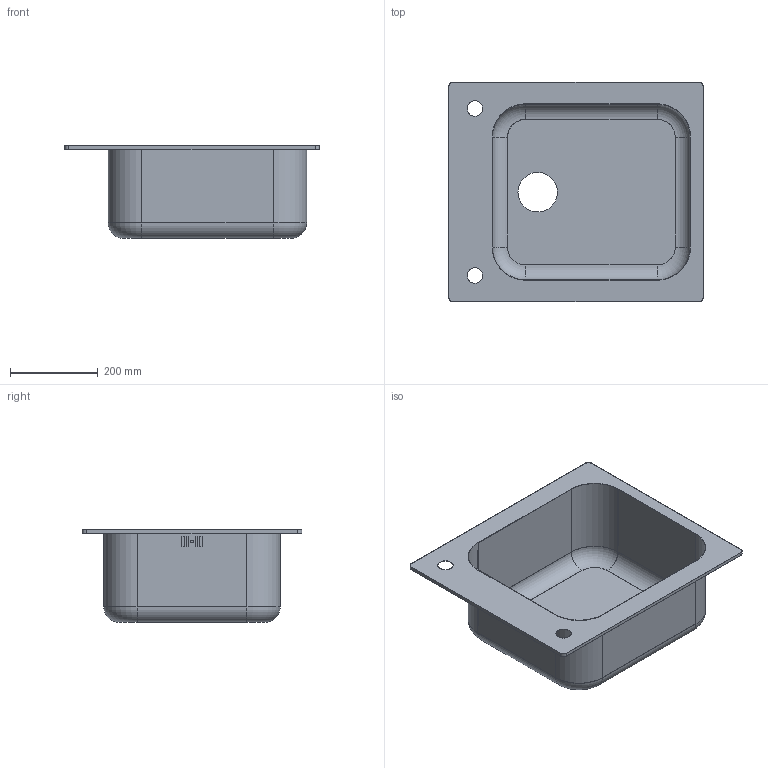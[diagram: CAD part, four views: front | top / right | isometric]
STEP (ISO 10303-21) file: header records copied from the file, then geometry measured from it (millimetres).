
FILE_DESCRIPTION(('CATIA V5 STEP Exchange'),'2;1');
FILE_NAME('C:\Users\linop\Desktop\VS45-P3.stp','2018-05-28T14:59:15+00:00',('none'),('none'),'CATIA Version 5-6 Release 2014','CATIA V5 STEP AP203','none');
FILE_SCHEMA(('CONFIG_CONTROL_DESIGN'));
Length unit declared in the file: millimetre
Products named in the file (1): VS45-P3
Bounding box: 580 x 500 x 210.6 mm (x, y, z)
Volume: 409515.8 mm3; surface area: 1210629.5 mm2
Topology: 2 solids, 2 shells, 102 faces, 272 edges, 176 vertices
Faces by surface type: cylinder 52, plane 42, torus 8
Entity records: 3185 total; most frequent: CARTESIAN_POINT 629, ORIENTED_EDGE 544, DIRECTION 448, EDGE_CURVE 272, AXIS2_PLACEMENT_3D 197, VERTEX_POINT 176, VECTOR 160, LINE 160
